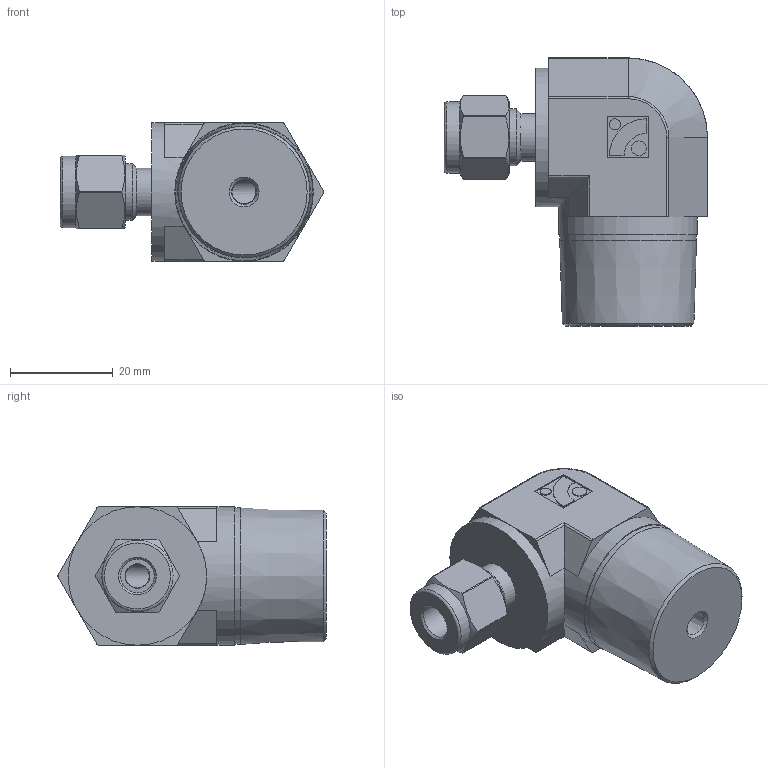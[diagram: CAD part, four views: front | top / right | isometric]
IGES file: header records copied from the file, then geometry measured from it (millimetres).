
Global section: file name: No Iges File Name specified; native system: Autodesk Inventor 2012; preprocessor: AutoDesk Inventor Iges Exporter R2012; author: 硅己绕,, ; organization: 11; date: 20150703.114023; units: millimetre
Bounding box: 51.36 x 52.31 x 27 mm (x, y, z)
Volume: 32708 mm3; surface area: 7964 mm2
Topology: 1 solids, 1 shells, 84 faces, 195 edges, 121 vertices
Faces by surface type: plane 42, cylinder 25, cone 7, revolution 6, torus 4
Full cylindrical faces by diameter (mm): 2.16 x1, 2.88 x1, 9.3 x1, 11.112 x1, 13.9 x1, 26.67 x1, 27 x2
